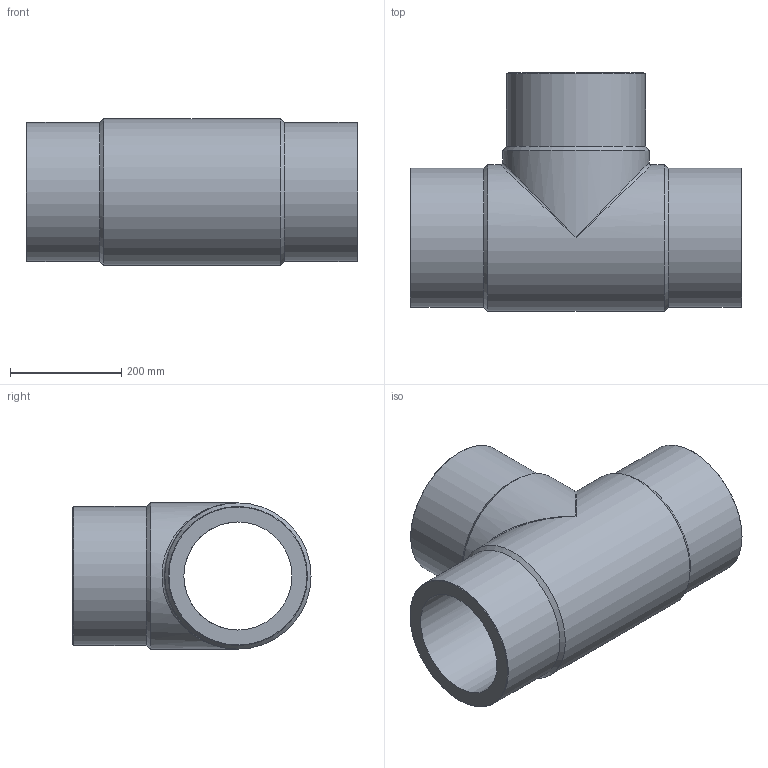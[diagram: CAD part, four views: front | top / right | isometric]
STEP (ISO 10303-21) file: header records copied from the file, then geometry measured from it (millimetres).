
FILE_DESCRIPTION(/* description */ ('Unknown'),/* implementation_level */ '2;1');
FILE_NAME(/* name */ 'TP250G',/* time_stamp */ '2021-08-06T10:10:14+02:00',/* author */ ('Unknown'),/* organization */ ('Unknown'),/* preprocessor_version */ 'ST-DEVELOPER v16.7',/* originating_system */ 'Solid Edge',/* authorisation */ 'Unknown');
FILE_SCHEMA (('AUTOMOTIVE_DESIGN {1 0 10303 214 3 1 1}'));
Length unit declared in the file: millimetre
Products named in the file (1): TP250G
Bounding box: 596 x 428 x 263 mm (x, y, z)
Volume: 16293723.1 mm3; surface area: 1113716 mm2
Topology: 1 solids, 1 shells, 18 faces, 44 edges, 23 vertices
Faces by surface type: cylinder 7, cone 6, plane 3, bspline 2
Full cylindrical faces by diameter (mm): 194.2 x2, 250 x3, 263 x2
Entity records: 528 total; most frequent: CARTESIAN_POINT 171, DIRECTION 76, ORIENTED_EDGE 42, AXIS2_PLACEMENT_3D 38, EDGE_LOOP 36, FACE_BOUND 36, EDGE_CURVE 21, VERTEX_POINT 19
